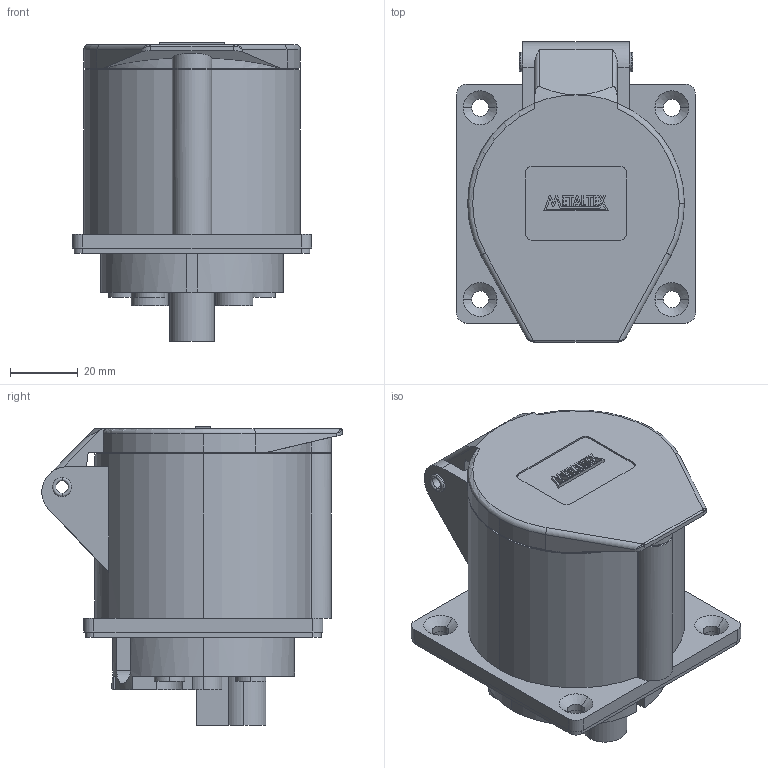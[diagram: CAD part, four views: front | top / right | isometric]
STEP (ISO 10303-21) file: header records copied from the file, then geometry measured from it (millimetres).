
FILE_DESCRIPTION (( 'STEP AP203' ), '1' );
FILE_NAME ('TLR32443..STEP', '2018-04-20T14:16:02', ( '' ), ( '' ), 'SwSTEP 2.0', 'SolidWorks 2012', '' );
FILE_SCHEMA (( 'CONFIG_CONTROL_DESIGN' ));
Length unit declared in the file: millimetre
Products named in the file (4): TLR32443.; TLR32443; METALTEX 18,98
Assembly tree (3 placements, depth 3):
  TLR32443.
    TLR32443
      TLR32443
      METALTEX 18,98
Bounding box: 70.6 x 88.68 x 88.1 mm (x, y, z)
Volume: 247164.3 mm3; surface area: 35371.6 mm2
Topology: 8 solids, 8 shells, 432 faces, 1091 edges, 715 vertices
Faces by surface type: plane 268, cylinder 143, cone 10, torus 9, bspline 2
Entity records: 13911 total; most frequent: CARTESIAN_POINT 2860, DIRECTION 2233, ORIENTED_EDGE 2178, EDGE_CURVE 1089, AXIS2_PLACEMENT_3D 746, VECTOR 741, LINE 741, VERTEX_POINT 715
